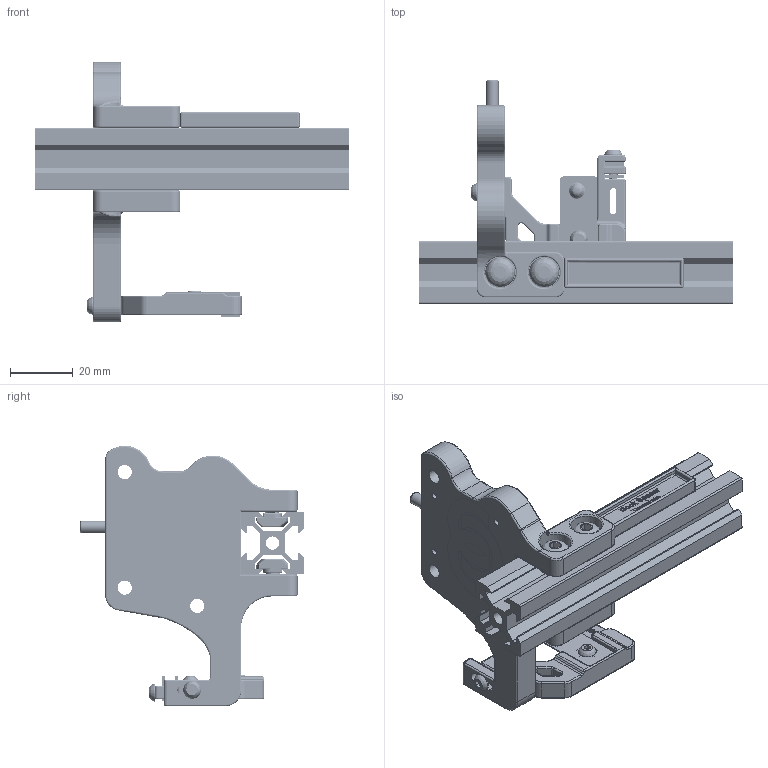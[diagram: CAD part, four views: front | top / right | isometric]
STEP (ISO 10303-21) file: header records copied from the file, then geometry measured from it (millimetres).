
FILE_DESCRIPTION(/* description */ ('','CAx-IF Rec.Pracs.---Representation and Presentation of Product Manufacturing Information (PMI)---4.0---2014-10-13'),/* implementation_level */ '2;1');
FILE_NAME(/* name */ 'Lineux One Dock v18.step',/* time_stamp */ '2024-12-15T18:19:02+07:00',/* author */ (''),/* organization */ (''),/* preprocessor_version */ 'ST-DEVELOPER v20',/* originating_system */ 'Autodesk Translation Framework v13.20.0.188',/* authorisation */ '');
FILE_SCHEMA (('AP242_MANAGED_MODEL_BASED_3D_ENGINEERING_MIM_LF { 1 0 10303 442 1 1 4 }'));
Products named in the file (36): Lineux One Dock; Dock; 2020 Extrusion (1); Silicon Wall (2); Silicon Wall (2) (1); Silicon Wall (3) (1); Hardware (2); m5 t nut; m5 t nut (1); m5 x 8mm bhcs (1) (1); m5 t nut (1) (1); m5 x 8mm bhcs (1); m5 t nut (2); m5 x 8mm bhcs; m3 brass insert (14); m3 washer; m3 x 8mm bhcs (1); m3 x 6mm bhcs (1) (1); m4 x 15mm threaded dowel pin ID (m3); m3 x 10mm bhcs (2); spring OD6 ID5 17mm; m5 x 8mm bhcs (2); m3 hex nut (3) (1); AA battery terminal (1); m3 x 10mm bhcs; Magnet; 8 x 5mm magnet (7); 8 x 5mm magnet (1) (1); 8 x 5mm magnet (1) (1) (1); 8 x 5mm magnet (1) (2); Printed Parts (2); Lineux Dock Red; Lineux Dock Blue; Dock Body; Dock Spacer Template; Nozzle Blocker Mount r2
Assembly tree (35 placements, depth 4):
  Lineux One Dock
    Dock
      2020 Extrusion (1)
      Silicon Wall (2)
        Silicon Wall (2) (1)
        Silicon Wall (3) (1)
      Hardware (2)
        m5 t nut
        m5 t nut (1)
        m5 x 8mm bhcs (1) (1)
        m5 t nut (1) (1)
        m5 x 8mm bhcs (1)
        m5 t nut (2)
        m5 x 8mm bhcs
        m3 brass insert (14)
        m3 washer
        m3 x 8mm bhcs (1)
        m3 x 6mm bhcs (1) (1)
        m4 x 15mm threaded dowel pin ID (m3)
        m3 x 10mm bhcs (2)
        spring OD6 ID5 17mm
        m5 x 8mm bhcs (2)
        m3 hex nut (3) (1)
        AA battery terminal (1)
        m3 x 10mm bhcs
      Magnet
        8 x 5mm magnet (7)
        8 x 5mm magnet (1) (1)
        8 x 5mm magnet (1) (1) (1)
        8 x 5mm magnet (1) (2)
      Printed Parts (2)
        Lineux Dock Red
        Lineux Dock Blue
        Dock Body
        Dock Spacer Template
        Nozzle Blocker Mount r2
Bounding box: 100 x 71.3 x 83.04 mm (x, y, z)
Volume: 49019.5 mm3; surface area: 40961.8 mm2
Topology: 30 solids, 30 shells, 2752 faces, 6978 edges, 4303 vertices
Faces by surface type: cylinder 1077, plane 659, bspline 634, torus 169, sphere 145, cone 68
Full cylindrical faces by diameter (mm): 2 x4, 2.356 x68, 2.376 x10, 2.5 x5, 2.529 x10, 2.9 x3, 2.927 x64, 3 x1, 3.086 x5, 3.2 x2, 3.4 x3, 3.505 x1, 3.564 x1, 3.99 x12, 4 x1, 4.2 x22, 4.5 x3, 4.7 x1, 4.751 x1, 4.901 x24, 5.066 x20, 5.5 x4, 5.7 x4, 6.5 x1, 6.7 x1, 8 x4, 8.1 x4, 10 x4
Entity records: 145188 total; most frequent: CARTESIAN_POINT 82443, ORIENTED_EDGE 13858, DIRECTION 11691, EDGE_CURVE 6929, AXIS2_PLACEMENT_3D 4440, VERTEX_POINT 4303, EDGE_LOOP 2878, LINE 2811
